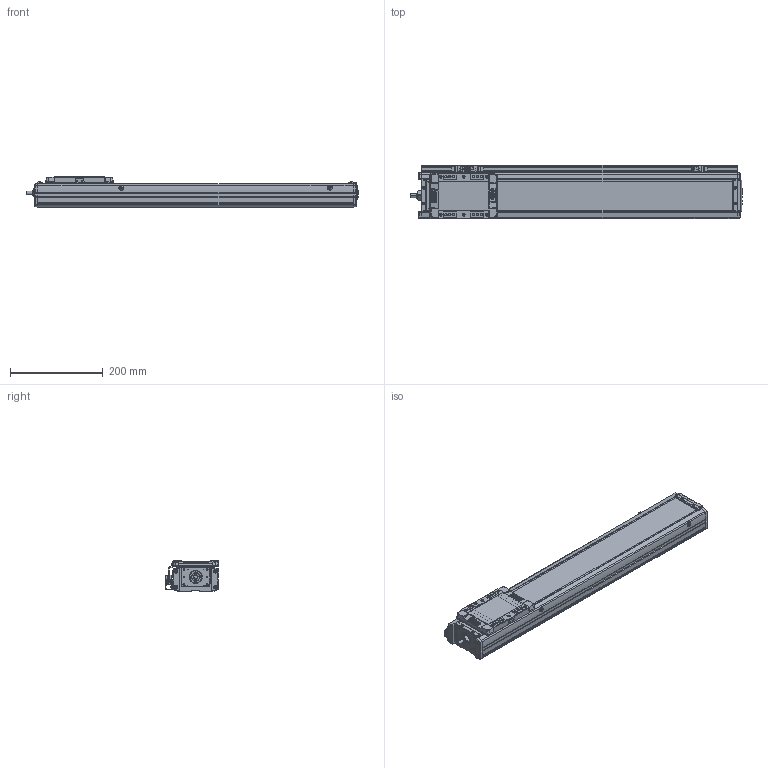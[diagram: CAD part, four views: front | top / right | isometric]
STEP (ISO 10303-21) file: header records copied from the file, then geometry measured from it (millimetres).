
FILE_DESCRIPTION(('STEP AP214'),'1');
FILE_NAME('Z:/Web/3D/SAN100/SAN100 양산용 (STEP)/SAN100ㅁㅁ-500+3SL.stp','2013-04-26T01:46:26',(' '),(' '),'Spatial InterOp 3D',' ',' ');
FILE_SCHEMA(('automotive_design'));
Length unit declared in the file: millimetre
Products named in the file (52): SGD-SAN100; M3.0 x 6.0; SRL-16x17-380L; EE-SX674; SBK-SX674-352; 스크루 : Round - M3.0 x 6.0; SUS COVER; SFX-SAN100; RRCV-SAN100; 스크루 : Round - M4.0 x 10.0; FRBL-SAN100; SLBL-SAN100; SLCV-SAN100; 스크루 : Countersunk - M3.0 x 6.0; BASE; 스크루 : Round - M5.0 x 6.0; 너트 : Square - M10.0 x 220.7419; RR1500-000L; FRCV-SAN100
Bounding box: 716 x 116 x 66 mm (x, y, z)
Volume: 1996371.5 mm3; surface area: 571455.7 mm2
Topology: 52 solids, 53 shells, 2471 faces, 6434 edges, 4161 vertices
Faces by surface type: plane 1324, cylinder 827, cone 218, sphere 64, torus 26, bspline 12
Entity records: 97429 total; most frequent: CARTESIAN_POINT 14600, DIRECTION 13505, ORIENTED_EDGE 12696, EDGE_CURVE 6348, AXIS2_PLACEMENT_3D 4775, VERTEX_POINT 4161, LINE 3955, VECTOR 3955
